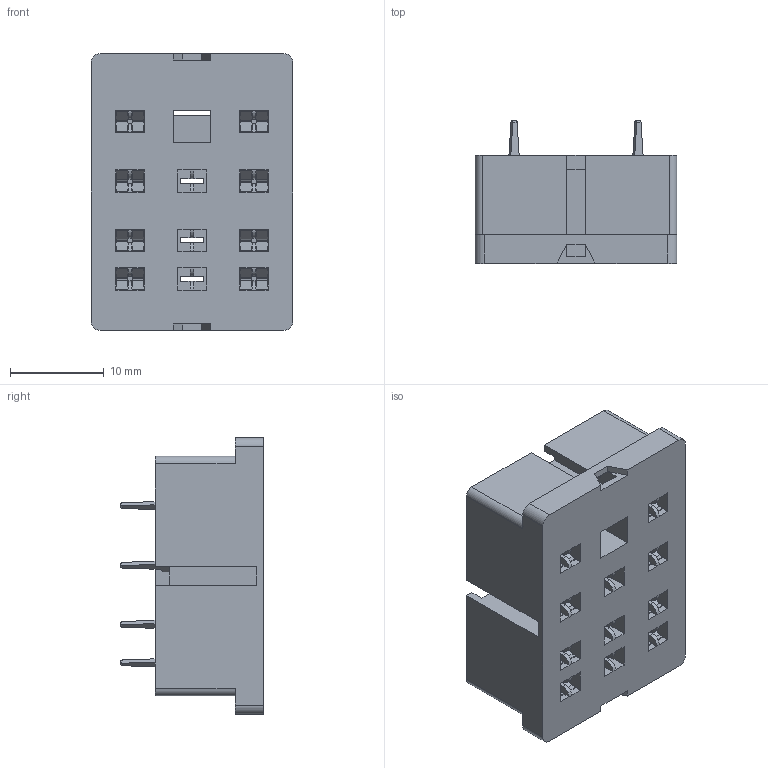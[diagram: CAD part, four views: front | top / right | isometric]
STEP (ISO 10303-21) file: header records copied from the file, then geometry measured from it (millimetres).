
FILE_DESCRIPTION(/* description */ (''),/* implementation_level */ '2;1');
FILE_NAME(/* name */ 'C:\Desktop\94.12.3.stp',/* time_stamp */ '2016-03-02T11:55:20+01:00',/* author */ ('marco'),/* organization */ (''),/* preprocessor_version */ 'ST-DEVELOPER v16.1',/* originating_system */ 'Autodesk Inventor 2016',/* authorisation */ '');
FILE_SCHEMA (('AUTOMOTIVE_DESIGN { 1 0 10303 214 3 1 1 }'));
Length unit declared in the file: centimetre
Products named in the file (1): 94.12
Bounding box: 21.5 x 15.2 x 29.5 mm (x, y, z)
Volume: 5156.4 mm3; surface area: 5156.5 mm2
Topology: 1 solids, 1 shells, 900 faces, 2802 edges, 1820 vertices
Faces by surface type: plane 734, cylinder 166
Entity records: 31229 total; most frequent: ORIENTED_EDGE 5604, CARTESIAN_POINT 5523, DIRECTION 4936, EDGE_CURVE 2802, LINE 2470, VECTOR 2470, VERTEX_POINT 1820, AXIS2_PLACEMENT_3D 1233
